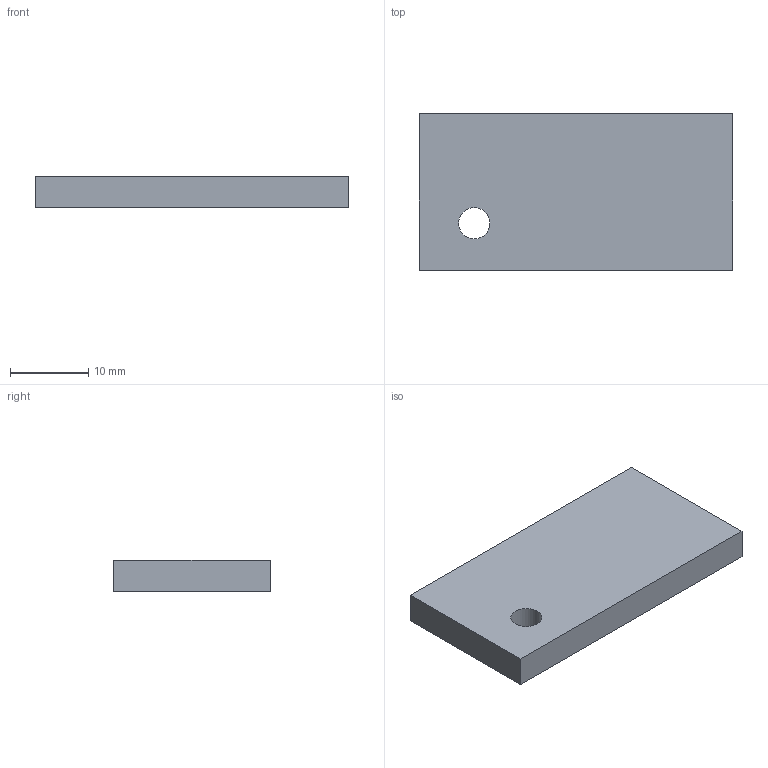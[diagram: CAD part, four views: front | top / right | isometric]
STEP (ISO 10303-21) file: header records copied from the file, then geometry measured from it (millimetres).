
FILE_DESCRIPTION(('Open CASCADE Model'),'2;1');
FILE_NAME('Open CASCADE Shape Model','2026-09-02T22:40:04',('Author'),( 'Open CASCADE'),'Open CASCADE STEP processor 7.8','Open CASCADE 7.8' ,'Unknown');
FILE_SCHEMA(('AUTOMOTIVE_DESIGN { 1 0 10303 214 1 1 1 1 }'));
Length unit declared in the file: millimetre
Products named in the file (1): Open CASCADE STEP translator 7.8 26
Bounding box: 40 x 20 x 4 mm (x, y, z)
Volume: 3149.7 mm3; surface area: 2105.1 mm2
Topology: 1 solids, 1 shells, 7 faces, 15 edges, 10 vertices
Faces by surface type: plane 6, cylinder 1
Full cylindrical faces by diameter (mm): 4 x1
Entity records: 400 total; most frequent: CARTESIAN_POINT 63, DIRECTION 63, LINE 41, VECTOR 41, ORIENTED_EDGE 30, PCURVE 30, DEFINITIONAL_REPRESENTATION 30, EDGE_CURVE 15
